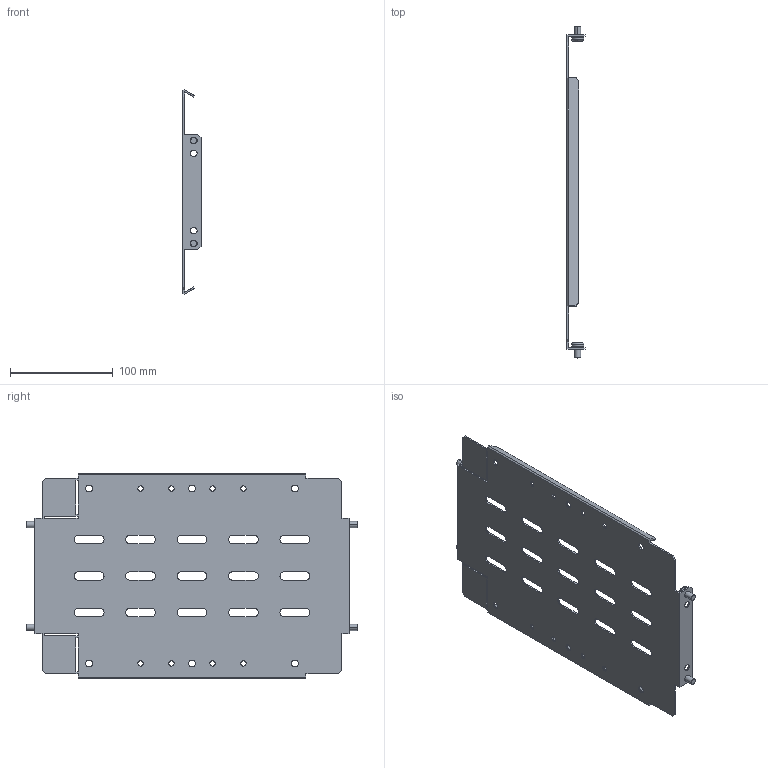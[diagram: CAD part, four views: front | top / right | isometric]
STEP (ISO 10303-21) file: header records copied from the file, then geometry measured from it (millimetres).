
FILE_DESCRIPTION (( 'STEP AP214' ), '1' );
FILE_NAME ('FO-00-SWV-020-040 Ïåðåãîðîäêà ñåêöèîíèðîâàíèÿ âåðòèêàëüíàÿ 200õ400 ìì.STEP', '2025-08-11T07:46:59', ( '' ), ( '' ), 'SwSTEP 2.0', 'SolidWorks 2023', '' );
FILE_SCHEMA (( 'AUTOMOTIVE_DESIGN' ));
Length unit declared in the file: millimetre
Products named in the file (1): FO-00-SWV-020-040 Перегородка секционирования вертикальная 200х400 мм
Bounding box: 17.5 x 322.5 x 198.93 mm (x, y, z)
Volume: 97032.4 mm3; surface area: 132187.4 mm2
Topology: 1 solids, 1 shells, 256 faces, 690 edges, 452 vertices
Faces by surface type: plane 142, cylinder 90, torus 16, cone 8
Entity records: 8213 total; most frequent: DIRECTION 1424, CARTESIAN_POINT 1399, ORIENTED_EDGE 1380, EDGE_CURVE 690, AXIS2_PLACEMENT_3D 477, LINE 470, VECTOR 470, VERTEX_POINT 452
